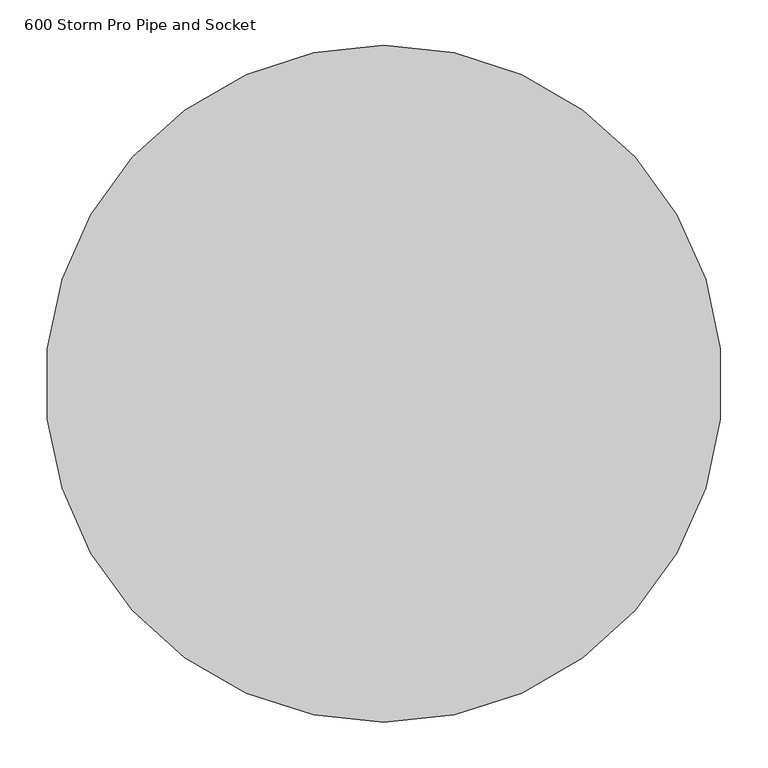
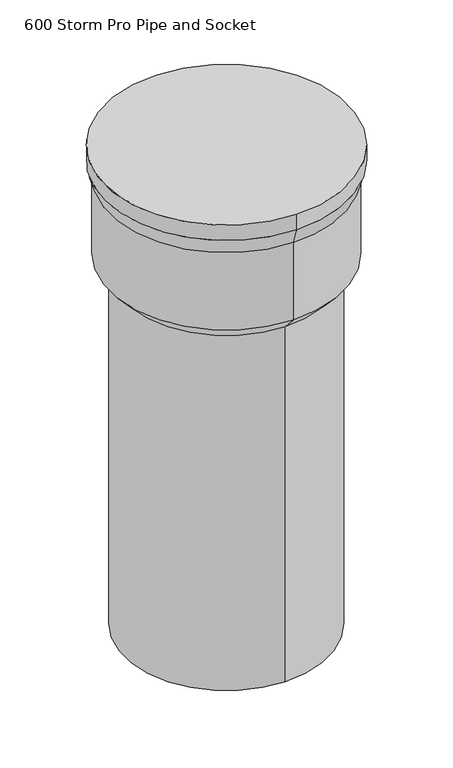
"""IFC4 building model written with IfcOpenShell, lengths in millimetres: proxy geometry, 600 Storm Pro Pipe and Socket."""

from ifc_helpers import new_model, si_unit, frame, origin, place, context, project, spatial, polyline, circle_curve, source, transform, mapped, element, save
from ifc_brep_helpers import plane_surface, cylinder_surface, revolved_surface, advanced_brep


def proxy_600_storm_pro_pipe_and_socket_58a41dc5(model_context):
    return source(origin(), model_context, "Body", "AdvancedBrep", [
        advanced_brep(
        [(0.0, 312.0, 2700.0), (0.0, 357.0, 2750.0), (0.0, -357.0, 2750.0), (0.0, -312.0, 2700.0), (0.0, 312.0, 1550.0), (0.0, -312.0, 1550.0), (0.0, 372.0, 3050.0), (0.0, 372.0, 3100.0), (0.0, -372.0, 3100.0), (0.0, -372.0, 3050.0), (0.0, 357.0, 3000.0), (0.0, -357.0, 3000.0), (-154.2934328, -271.1780533, 1550.0)],
        [
            (0, 1),
            (1, 2, circle_curve(frame((0.0, 0.0, 2750.0), z_axis=(0.0, 0.0, -1.0), x_axis=(0.0, -1.0, 0.0)), 357.0)),
            (2, 3),
            (3, 0, circle_curve(frame((0.0, 0.0, 2700.0), z_axis=(0.0, 0.0, 1.0), x_axis=(0.0, -1.0, 0.0)), 312.0)),
            (4, 0),
            (3, 5),
            (5, 4, circle_curve(frame((0.0, 0.0, 1550.0), z_axis=(0.0, 0.0, 1.0), x_axis=(0.0, 1.0, 0.0)), 312.0)),
            (6, 7),
            (7, 8, circle_curve(frame((0.0, 0.0, 3100.0), z_axis=(0.0, 0.0, -1.0), x_axis=(0.0, 1.0, 0.0)), 372.0)),
            (8, 9),
            (9, 6, circle_curve(frame((0.0, 0.0, 3050.0), z_axis=(0.0, 0.0, 1.0), x_axis=(0.0, 1.0, 0.0)), 372.0)),
            (10, 6),
            (9, 11),
            (11, 10, circle_curve(frame((0.0, 0.0, 3000.0), z_axis=(0.0, 0.0, 1.0), x_axis=(0.0, -1.0, 0.0)), 357.0)),
            (1, 10),
            (11, 2),
            (7, 8, circle_curve(frame((0.0, 0.0, 3100.0), z_axis=(0.0, 0.0, 1.0), x_axis=(0.0, 1.0, 0.0)), 372.0)),
            (5, 12, circle_curve(frame((0.0, 0.0, 1550.0), z_axis=(0.0, 0.0, -1.0), x_axis=(0.0, 1.0, 0.0)), 312.0)),
            (12, 4, circle_curve(frame((0.0, 0.0, 1550.0), z_axis=(0.0, 0.0, -1.0), x_axis=(0.0, 1.0, 0.0)), 312.0)),
            (1, 2, circle_curve(frame((0.0, 0.0, 2750.0), z_axis=(0.0, 0.0, 1.0), x_axis=(0.0, 1.0, 0.0)), 357.0)),
            (11, 10, circle_curve(frame((0.0, 0.0, 3000.0), z_axis=(0.0, 0.0, -1.0), x_axis=(0.0, 1.0, 0.0)), 357.0)),
            (9, 6, circle_curve(frame((0.0, 0.0, 3050.0), z_axis=(0.0, 0.0, -1.0), x_axis=(0.0, 1.0, 0.0)), 372.0)),
            (3, 0, circle_curve(frame((0.0, 0.0, 2700.0), z_axis=(0.0, 0.0, -1.0), x_axis=(0.0, 1.0, 0.0)), 312.0)),
        ],
        [
            revolved_surface(polyline([(0.0, 312.0000000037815, 2700.0), (0.0, 357.0, 2750.0)]), (0.0, 0.0, 2353.3333333), (0.0, 0.0, 1.0)),
            cylinder_surface(frame((0.0, 0.0, 1350.0), z_axis=(0.0, 0.0, 1.0), x_axis=(0.0, 1.0, 0.0)), 312.0),
            cylinder_surface(frame((0.0, 0.0, 3075.0), z_axis=(0.0, 0.0, 1.0), x_axis=(0.0, 1.0, 0.0)), 372.0),
            revolved_surface(polyline([(0.0, 357.0, 3000.0), (0.0, 372.0, 3050.0)]), (0.0, 0.0, 1810.0), (0.0, 0.0, 1.0)),
            cylinder_surface(frame((0.0, 0.0, 2875.0), z_axis=(0.0, 0.0, 1.0), x_axis=(0.0, 1.0, 0.0)), 357.0),
            plane_surface(frame((0.0, 360.0, 3100.0), z_axis=(0.0, 0.0, 1.0), x_axis=(1.0, 0.0, 0.0))),
            plane_surface(frame((0.0, 0.0, 1550.0), z_axis=(0.0, 0.0, -1.0), x_axis=(-0.8644449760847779, -0.502727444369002, 0.0))),
        ],
        [
            (0, [[1, 2, 3, 4]]),
            (1, [[5, -4, 6, 7]]),
            (2, [[8, 9, 10, 11]]),
            (3, [[12, -11, 13, 14]]),
            (4, [[15, -14, 16, -2]]),
            (5, [[17, -9]]),
            (6, [[18, 19, -7]]),
            (4, [[-15, 20, -16, 21]]),
            (3, [[-12, -21, -13, 22]]),
            (2, [[-8, -22, -10, -17]]),
            (1, [[-5, -19, -18, -6, 23]]),
            (0, [[-1, -23, -3, -20]]),
        ],
    ),
    ])


if __name__ == "__main__":
    model = new_model("IFC4")
    model_context = context("Model", 3, world=origin())
    ifc_project = project(units=[si_unit("LENGTHUNIT", "METRE", prefix="MILLI")], contexts=[model_context])
    site = spatial("IfcSite", under=ifc_project)
    building = spatial("IfcBuilding", under=site)
    placement = place(None, origin())
    proxy_600_storm_pro_pipe_and_socket_shape = proxy_600_storm_pro_pipe_and_socket_58a41dc5(model_context)
    element("IfcBuildingElementProxy", 1, Name="600 Storm Pro Pipe and Socket", ObjectType="600 Storm Pro Pipe and Socket", at=placement, inside=building, context=model_context, shape_type="MappedRepresentation", body=[
        mapped(proxy_600_storm_pro_pipe_and_socket_shape, transform((0.0, 0.0, 0.0), x_axis=(1.0, 0.0, 0.0), y_axis=(0.0, 1.0, 0.0), z_axis=(0.0, 0.0, 1.0))),
    ])
    save(model, "model.ifc")
